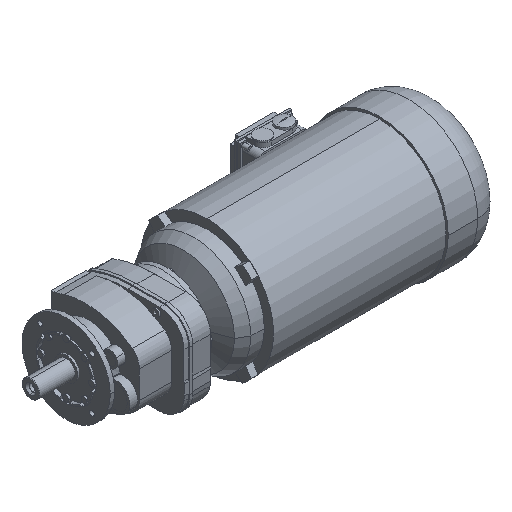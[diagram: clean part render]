
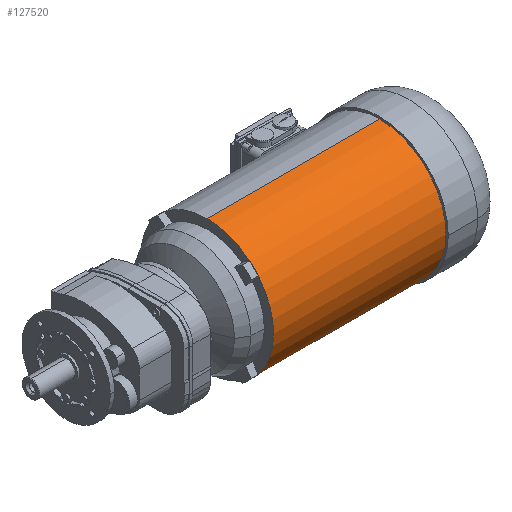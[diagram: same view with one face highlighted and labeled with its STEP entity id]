
A CAD part, isometric view. The second image highlights one B-rep face of the part: STEP entity #127520.
In plain terms, the highlighted cylindrical face has radius 150 mm (diameter 300 mm), a partial arc.
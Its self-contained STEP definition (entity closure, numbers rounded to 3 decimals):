
#125560=CARTESIAN_POINT('',(0.,0.,0.));
#125570=DIRECTION('',(-1.,0.,0.));
#125580=DIRECTION('',(0.,0.,1.));
#125590=AXIS2_PLACEMENT_3D('',#125560,#125570,#125580);
#125600=CIRCLE('',#125590,150.);
#125610=CARTESIAN_POINT('',(0.,0.,150.));
#125620=VERTEX_POINT('',#125610);
#125630=CARTESIAN_POINT('',(0.,0.,-150.));
#125640=VERTEX_POINT('',#125630);
#125670=EDGE_CURVE('',#125640,#125620,#125600,.T.);
#125770=CARTESIAN_POINT('',(388.5,0.,0.));
#125780=DIRECTION('',(-1.,0.,0.));
#125790=DIRECTION('',(0.,0.,1.));
#125800=AXIS2_PLACEMENT_3D('',#125770,#125780,#125790);
#125810=CIRCLE('',#125800,150.);
#125820=CARTESIAN_POINT('',(388.5,0.,150.));
#125830=VERTEX_POINT('',#125820);
#125840=CARTESIAN_POINT('',(388.5,0.,-150.));
#125850=VERTEX_POINT('',#125840);
#125880=EDGE_CURVE('',#125850,#125830,#125810,.T.);
#127310=CARTESIAN_POINT('',(0.,0.,0.));
#127320=DIRECTION('',(-1.,0.,0.));
#127330=DIRECTION('',(0.,0.,1.));
#127340=AXIS2_PLACEMENT_3D('',#127310,#127320,#127330);
#127350=CYLINDRICAL_SURFACE('',#127340,150.);
#127360=CARTESIAN_POINT('',(0.,0.,150.));
#127370=DIRECTION('',(-1.,0.,0.));
#127380=VECTOR('',#127370,1.);
#127390=LINE('',#127360,#127380);
#127400=EDGE_CURVE('',#125830,#125620,#127390,.T.);
#127410=ORIENTED_EDGE('',*,*,#127400,.T.);
#127420=ORIENTED_EDGE('',*,*,#125880,.T.);
#127430=CARTESIAN_POINT('',(0.,0.,-150.));
#127440=DIRECTION('',(-1.,0.,0.));
#127450=VECTOR('',#127440,1.);
#127460=LINE('',#127430,#127450);
#127470=EDGE_CURVE('',#125850,#125640,#127460,.T.);
#127480=ORIENTED_EDGE('',*,*,#127470,.F.);
#127490=ORIENTED_EDGE('',*,*,#125670,.F.);
#127500=EDGE_LOOP('',(#127490,#127480,#127420,#127410));
#127510=FACE_OUTER_BOUND('',#127500,.T.);
#127520=ADVANCED_FACE('',(#127510),#127350,.T.);
